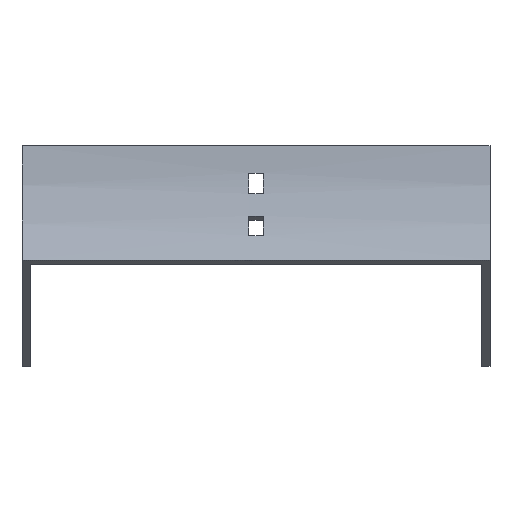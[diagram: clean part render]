
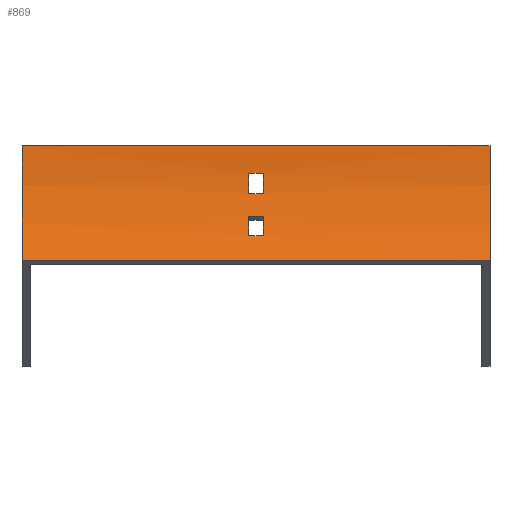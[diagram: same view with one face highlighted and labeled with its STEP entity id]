
A CAD part, front view. The second image highlights one B-rep face of the part: STEP entity #869.
In plain terms, the highlighted cylindrical face has radius 100 mm (diameter 200 mm), a partial arc.
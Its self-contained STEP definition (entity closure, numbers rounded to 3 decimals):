
#14 = CIRCLE ( 'NONE', #1332, 100. ) ;
#33 = EDGE_CURVE ( 'NONE', #122, #1578, #520, .T. ) ;
#36 = CARTESIAN_POINT ( 'NONE',  ( 102., -100., 0. ) ) ;
#73 = CARTESIAN_POINT ( 'NONE',  ( 102., -8.023, -39.246 ) ) ;
#96 = EDGE_LOOP ( 'NONE', ( #1407, #913, #535, #313 ) ) ;
#112 = DIRECTION ( 'NONE',  ( 1., 0., 0. ) ) ;
#118 = LINE ( 'NONE', #247, #720 ) ;
#122 = VERTEX_POINT ( 'NONE', #370 ) ;
#127 = CARTESIAN_POINT ( 'NONE',  ( -3.25, -8.023, -39.246 ) ) ;
#151 = VECTOR ( 'NONE', #965, 1000. ) ;
#167 = AXIS2_PLACEMENT_3D ( 'NONE', #1311, #936, #1338 ) ;
#170 = VECTOR ( 'NONE', #368, 1000. ) ;
#241 = CARTESIAN_POINT ( 'NONE',  ( 3.25, -100., 0. ) ) ;
#247 = CARTESIAN_POINT ( 'NONE',  ( 102., 0., 0. ) ) ;
#264 = AXIS2_PLACEMENT_3D ( 'NONE', #458, #984, #629 ) ;
#267 = CIRCLE ( 'NONE', #618, 100. ) ;
#273 = CYLINDRICAL_SURFACE ( 'NONE', #773, 100. ) ;
#280 = DIRECTION ( 'NONE',  ( -1., 0., 0. ) ) ;
#285 = EDGE_LOOP ( 'NONE', ( #872, #898, #1132, #1147 ) ) ;
#286 = CIRCLE ( 'NONE', #642, 100. ) ;
#306 = DIRECTION ( 'NONE',  ( -1., 0., 0. ) ) ;
#313 = ORIENTED_EDGE ( 'NONE', *, *, #1526, .T. ) ;
#321 = CARTESIAN_POINT ( 'NONE',  ( -3.25, -4.829, -30.699 ) ) ;
#336 = LINE ( 'NONE', #591, #1110 ) ;
#356 = VERTEX_POINT ( 'NONE', #740 ) ;
#357 = VERTEX_POINT ( 'NONE', #1253 ) ;
#368 = DIRECTION ( 'NONE',  ( -1., 0., 0. ) ) ;
#370 = CARTESIAN_POINT ( 'NONE',  ( 3.25, -0.723, -12. ) ) ;
#384 = CARTESIAN_POINT ( 'NONE',  ( -102., 0., 0. ) ) ;
#390 = VECTOR ( 'NONE', #112, 1000. ) ;
#421 = CARTESIAN_POINT ( 'NONE',  ( 102., -100., 0. ) ) ;
#435 = CARTESIAN_POINT ( 'NONE',  ( 102., 0., 0. ) ) ;
#439 = EDGE_CURVE ( 'NONE', #1386, #1168, #14, .T. ) ;
#447 = DIRECTION ( 'NONE',  ( 1., 0., 0. ) ) ;
#458 = CARTESIAN_POINT ( 'NONE',  ( 3.25, -100., 0. ) ) ;
#507 = DIRECTION ( 'NONE',  ( 0., 0., 1. ) ) ;
#520 = CIRCLE ( 'NONE', #264, 100. ) ;
#535 = ORIENTED_EDGE ( 'NONE', *, *, #896, .F. ) ;
#564 = EDGE_CURVE ( 'NONE', #1383, #357, #336, .T. ) ;
#571 = EDGE_CURVE ( 'NONE', #1092, #357, #286, .T. ) ;
#591 = CARTESIAN_POINT ( 'NONE',  ( 102., -13.397, -50. ) ) ;
#605 = VERTEX_POINT ( 'NONE', #1514 ) ;
#618 = AXIS2_PLACEMENT_3D ( 'NONE', #241, #1182, #1316 ) ;
#625 = ORIENTED_EDGE ( 'NONE', *, *, #1460, .F. ) ;
#629 = DIRECTION ( 'NONE',  ( 0., 0., -1. ) ) ;
#642 = AXIS2_PLACEMENT_3D ( 'NONE', #651, #1394, #507 ) ;
#651 = CARTESIAN_POINT ( 'NONE',  ( -102., -100., 0. ) ) ;
#665 = DIRECTION ( 'NONE',  ( -1., 0., 0. ) ) ;
#668 = EDGE_LOOP ( 'NONE', ( #1405, #1515, #625, #1304 ) ) ;
#711 = DIRECTION ( 'NONE',  ( 0., 0., 1. ) ) ;
#720 = VECTOR ( 'NONE', #665, 1000. ) ;
#740 = CARTESIAN_POINT ( 'NONE',  ( -3.25, -2.23, -21. ) ) ;
#773 = AXIS2_PLACEMENT_3D ( 'NONE', #36, #306, #711 ) ;
#792 = VERTEX_POINT ( 'NONE', #435 ) ;
#793 = CARTESIAN_POINT ( 'NONE',  ( 3.25, -2.23, -21. ) ) ;
#813 = DIRECTION ( 'NONE',  ( 0., 0., -1. ) ) ;
#833 = DIRECTION ( 'NONE',  ( -1., 0., 0. ) ) ;
#855 = EDGE_CURVE ( 'NONE', #1578, #356, #1097, .T. ) ;
#869 = ADVANCED_FACE ( 'NONE', ( #1471, #1229, #1322 ), #273, .F. ) ;
#872 = ORIENTED_EDGE ( 'NONE', *, *, #855, .T. ) ;
#896 = EDGE_CURVE ( 'NONE', #792, #1383, #1636, .T. ) ;
#898 = ORIENTED_EDGE ( 'NONE', *, *, #1192, .T. ) ;
#909 = VECTOR ( 'NONE', #447, 1000. ) ;
#913 = ORIENTED_EDGE ( 'NONE', *, *, #564, .F. ) ;
#936 = DIRECTION ( 'NONE',  ( 1., 0., 0. ) ) ;
#944 = DIRECTION ( 'NONE',  ( -1., 0., 0. ) ) ;
#948 = CARTESIAN_POINT ( 'NONE',  ( -3.25, -0.723, -12. ) ) ;
#965 = DIRECTION ( 'NONE',  ( -1., 0., 0. ) ) ;
#978 = CARTESIAN_POINT ( 'NONE',  ( 102., -13.397, -50. ) ) ;
#984 = DIRECTION ( 'NONE',  ( -1., 0., 0. ) ) ;
#996 = EDGE_CURVE ( 'NONE', #1168, #1204, #1501, .T. ) ;
#1082 = CARTESIAN_POINT ( 'NONE',  ( 3.25, -8.023, -39.246 ) ) ;
#1089 = AXIS2_PLACEMENT_3D ( 'NONE', #421, #944, #1441 ) ;
#1092 = VERTEX_POINT ( 'NONE', #384 ) ;
#1097 = LINE ( 'NONE', #1220, #151 ) ;
#1110 = VECTOR ( 'NONE', #833, 1000. ) ;
#1132 = ORIENTED_EDGE ( 'NONE', *, *, #1177, .T. ) ;
#1147 = ORIENTED_EDGE ( 'NONE', *, *, #33, .T. ) ;
#1153 = CARTESIAN_POINT ( 'NONE',  ( 102., -0.723, -12. ) ) ;
#1168 = VERTEX_POINT ( 'NONE', #127 ) ;
#1175 = EDGE_CURVE ( 'NONE', #605, #1386, #1434, .T. ) ;
#1177 = EDGE_CURVE ( 'NONE', #1340, #122, #1411, .T. ) ;
#1182 = DIRECTION ( 'NONE',  ( 1., 0., 0. ) ) ;
#1192 = EDGE_CURVE ( 'NONE', #356, #1340, #1268, .T. ) ;
#1204 = VERTEX_POINT ( 'NONE', #1082 ) ;
#1220 = CARTESIAN_POINT ( 'NONE',  ( 102., -2.23, -21. ) ) ;
#1229 = FACE_BOUND ( 'NONE', #285, .T. ) ;
#1253 = CARTESIAN_POINT ( 'NONE',  ( -102., -13.397, -50. ) ) ;
#1268 = CIRCLE ( 'NONE', #167, 100. ) ;
#1304 = ORIENTED_EDGE ( 'NONE', *, *, #996, .F. ) ;
#1311 = CARTESIAN_POINT ( 'NONE',  ( -3.25, -100., 0. ) ) ;
#1316 = DIRECTION ( 'NONE',  ( 0., 0., 1. ) ) ;
#1322 = FACE_BOUND ( 'NONE', #668, .T. ) ;
#1332 = AXIS2_PLACEMENT_3D ( 'NONE', #1587, #280, #813 ) ;
#1338 = DIRECTION ( 'NONE',  ( 0., 0., 1. ) ) ;
#1340 = VERTEX_POINT ( 'NONE', #948 ) ;
#1383 = VERTEX_POINT ( 'NONE', #978 ) ;
#1386 = VERTEX_POINT ( 'NONE', #321 ) ;
#1394 = DIRECTION ( 'NONE',  ( -1., 0., 0. ) ) ;
#1405 = ORIENTED_EDGE ( 'NONE', *, *, #439, .F. ) ;
#1407 = ORIENTED_EDGE ( 'NONE', *, *, #571, .T. ) ;
#1411 = LINE ( 'NONE', #1153, #390 ) ;
#1434 = LINE ( 'NONE', #1690, #170 ) ;
#1441 = DIRECTION ( 'NONE',  ( 0., 0., 1. ) ) ;
#1460 = EDGE_CURVE ( 'NONE', #1204, #605, #267, .T. ) ;
#1471 = FACE_OUTER_BOUND ( 'NONE', #96, .T. ) ;
#1501 = LINE ( 'NONE', #73, #909 ) ;
#1514 = CARTESIAN_POINT ( 'NONE',  ( 3.25, -4.829, -30.699 ) ) ;
#1515 = ORIENTED_EDGE ( 'NONE', *, *, #1175, .F. ) ;
#1526 = EDGE_CURVE ( 'NONE', #792, #1092, #118, .T. ) ;
#1578 = VERTEX_POINT ( 'NONE', #793 ) ;
#1587 = CARTESIAN_POINT ( 'NONE',  ( -3.25, -100., 0. ) ) ;
#1636 = CIRCLE ( 'NONE', #1089, 100. ) ;
#1690 = CARTESIAN_POINT ( 'NONE',  ( 102., -4.829, -30.699 ) ) ;
